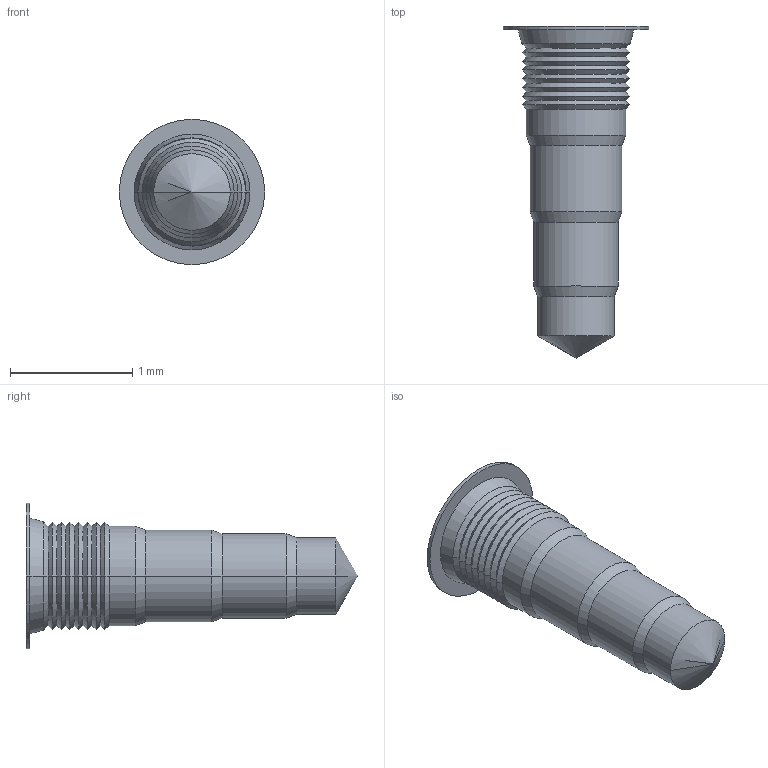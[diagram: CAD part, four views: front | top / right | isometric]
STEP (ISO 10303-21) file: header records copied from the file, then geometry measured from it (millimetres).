
FILE_DESCRIPTION((''),'2;1');
FILE_NAME('0002-3D.stp','2011-04-18T10:59:56',(''),(''),'Mechanical Desktop 2009','Mechanical Desktop 2009',', , ');
FILE_SCHEMA(('CONFIG_CONTROL_DESIGN'));
Length unit declared in the file: millimetre
Products named in the file (1): Product
Bounding box: 1.19 x 2.71 x 1.19 mm (x, y, z)
Volume: 1.2 mm3; surface area: 8.4 mm2
Topology: 1 solids, 1 shells, 52 faces, 104 edges, 53 vertices
Faces by surface type: cone 40, cylinder 10, plane 2
Entity records: 1393 total; most frequent: DIRECTION 260, CARTESIAN_POINT 208, ORIENTED_EDGE 204, AXIS2_PLACEMENT_3D 105, EDGE_CURVE 102, VERTEX_POINT 53, EDGE_LOOP 53, CIRCLE 52
